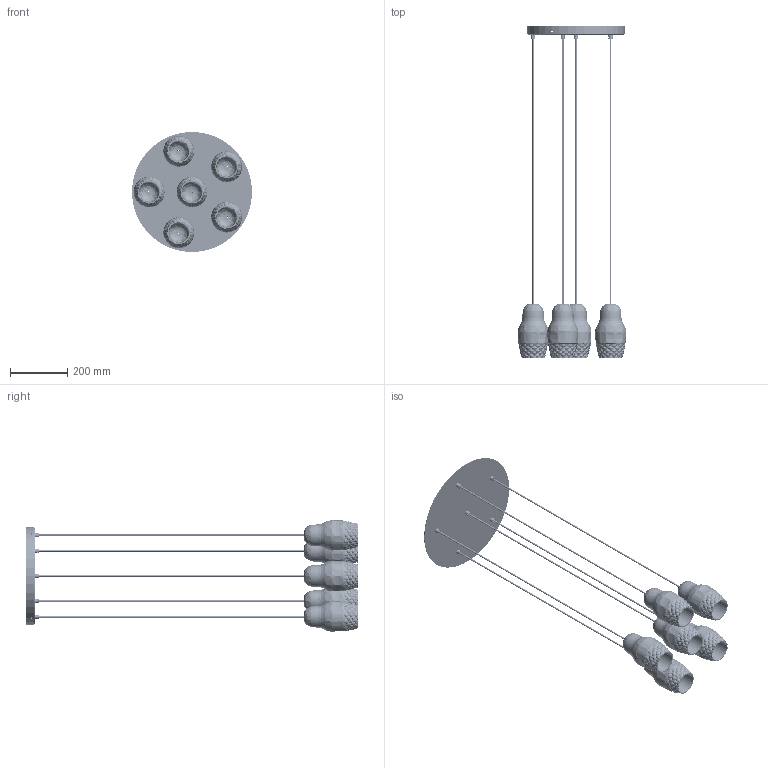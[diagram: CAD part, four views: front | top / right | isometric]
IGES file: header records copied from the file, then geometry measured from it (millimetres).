
Start section: SolidWorks IGES file using analytic representation for surfaces
Global section: file name: \\STORAGE\Tecnico Condiviso\1 FASCICOLI TECNICI\AXO DESIGN\AXO007-FEDORA\20150702-FEDORA CE\SP6\SW\SPFEDORA06-PER 3D.IGS; native system: SolidWorks 2024; preprocessor: SolidWorks 2024; author: tecnico3; date: 240529.170430; units: millimetre
Bounding box: 420 x 1162.53 x 420 mm (x, y, z)
Surface area: 1413229.2 mm2 (no closed solid volume)
Topology: 0 solids, 0 shells, 2168 faces, 22920 edges, 22920 vertices
Faces by surface type: bspline 1903, revolution 265
